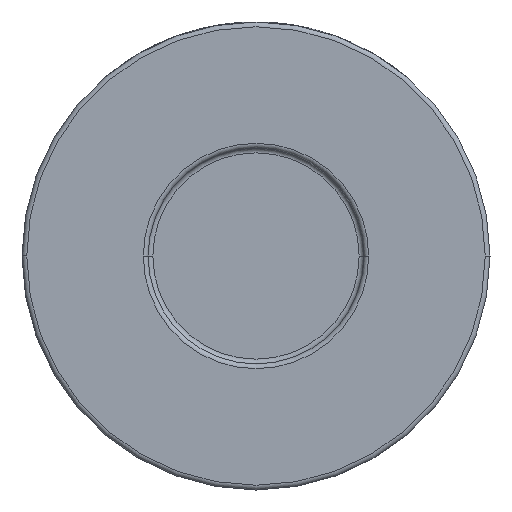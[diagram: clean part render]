
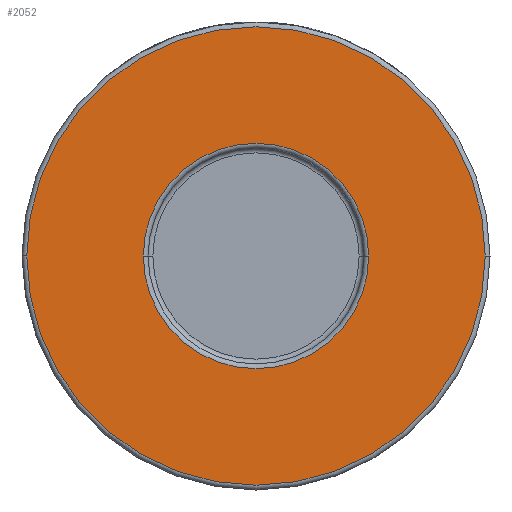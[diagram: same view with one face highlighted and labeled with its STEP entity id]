
A CAD part, front view. The second image highlights one B-rep face of the part: STEP entity #2052.
In plain terms, the highlighted planar face has unit normal (0, -1, 0).
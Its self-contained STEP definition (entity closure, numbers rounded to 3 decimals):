
#2 = DIRECTION ( 'NONE',  ( 0., -1., 0. ) ) ;
#144 = DIRECTION ( 'NONE',  ( 0., 1., 0. ) ) ;
#186 = CARTESIAN_POINT ( 'NONE',  ( -23.6, -30., 0. ) ) ;
#277 = VERTEX_POINT ( 'NONE', #419 ) ;
#367 = AXIS2_PLACEMENT_3D ( 'NONE', #3074, #3143, #3096 ) ;
#419 = CARTESIAN_POINT ( 'NONE',  ( -48., -30., 0. ) ) ;
#447 = ORIENTED_EDGE ( 'NONE', *, *, #1764, .T. ) ;
#1009 = EDGE_LOOP ( 'NONE', ( #3023, #4374 ) ) ;
#1061 = CARTESIAN_POINT ( 'NONE',  ( 49., -30., 0. ) ) ;
#1116 = DIRECTION ( 'NONE',  ( 0., -1., 0. ) ) ;
#1283 = EDGE_CURVE ( 'NONE', #277, #3516, #2348, .T. ) ;
#1317 = DIRECTION ( 'NONE',  ( 1., 0., 0. ) ) ;
#1340 = DIRECTION ( 'NONE',  ( 0., -1., 0. ) ) ;
#1351 = FACE_BOUND ( 'NONE', #4704, .T. ) ;
#1764 = EDGE_CURVE ( 'NONE', #2458, #2831, #4643, .T. ) ;
#1999 = EDGE_CURVE ( 'NONE', #2831, #2458, #3897, .T. ) ;
#2010 = FACE_OUTER_BOUND ( 'NONE', #1009, .T. ) ;
#2017 = CARTESIAN_POINT ( 'NONE',  ( 48., -30., 0. ) ) ;
#2052 = ADVANCED_FACE ( 'NONE', ( #1351, #2010 ), #2225, .T. ) ;
#2225 = PLANE ( 'NONE',  #4044 ) ;
#2348 = CIRCLE ( 'NONE', #4317, 48. ) ;
#2458 = VERTEX_POINT ( 'NONE', #186 ) ;
#2562 = CARTESIAN_POINT ( 'NONE',  ( 0., -30., 0. ) ) ;
#2748 = EDGE_CURVE ( 'NONE', #3516, #277, #3480, .T. ) ;
#2831 = VERTEX_POINT ( 'NONE', #2985 ) ;
#2868 = DIRECTION ( 'NONE',  ( 1., 0., 0. ) ) ;
#2985 = CARTESIAN_POINT ( 'NONE',  ( 23.6, -30., 0. ) ) ;
#3023 = ORIENTED_EDGE ( 'NONE', *, *, #2748, .T. ) ;
#3028 = CARTESIAN_POINT ( 'NONE',  ( 0., -30., 0. ) ) ;
#3065 = ORIENTED_EDGE ( 'NONE', *, *, #1999, .T. ) ;
#3074 = CARTESIAN_POINT ( 'NONE',  ( 0., -30., 0. ) ) ;
#3096 = DIRECTION ( 'NONE',  ( 1., 0., 0. ) ) ;
#3143 = DIRECTION ( 'NONE',  ( 0., 1., 0. ) ) ;
#3182 = CARTESIAN_POINT ( 'NONE',  ( 0., -30., 0. ) ) ;
#3480 = CIRCLE ( 'NONE', #3650, 48. ) ;
#3516 = VERTEX_POINT ( 'NONE', #2017 ) ;
#3577 = DIRECTION ( 'NONE',  ( 1., 0., 0. ) ) ;
#3650 = AXIS2_PLACEMENT_3D ( 'NONE', #2562, #1116, #2868 ) ;
#3752 = DIRECTION ( 'NONE',  ( 1., 0., 0. ) ) ;
#3897 = CIRCLE ( 'NONE', #367, 23.6 ) ;
#4044 = AXIS2_PLACEMENT_3D ( 'NONE', #1061, #2, #3577 ) ;
#4317 = AXIS2_PLACEMENT_3D ( 'NONE', #3182, #1340, #1317 ) ;
#4374 = ORIENTED_EDGE ( 'NONE', *, *, #1283, .T. ) ;
#4643 = CIRCLE ( 'NONE', #4719, 23.6 ) ;
#4704 = EDGE_LOOP ( 'NONE', ( #3065, #447 ) ) ;
#4719 = AXIS2_PLACEMENT_3D ( 'NONE', #3028, #144, #3752 ) ;
